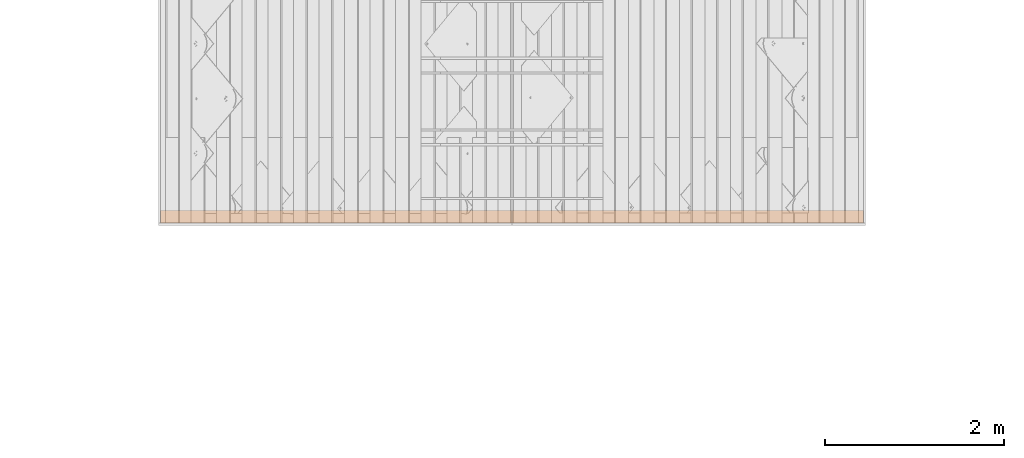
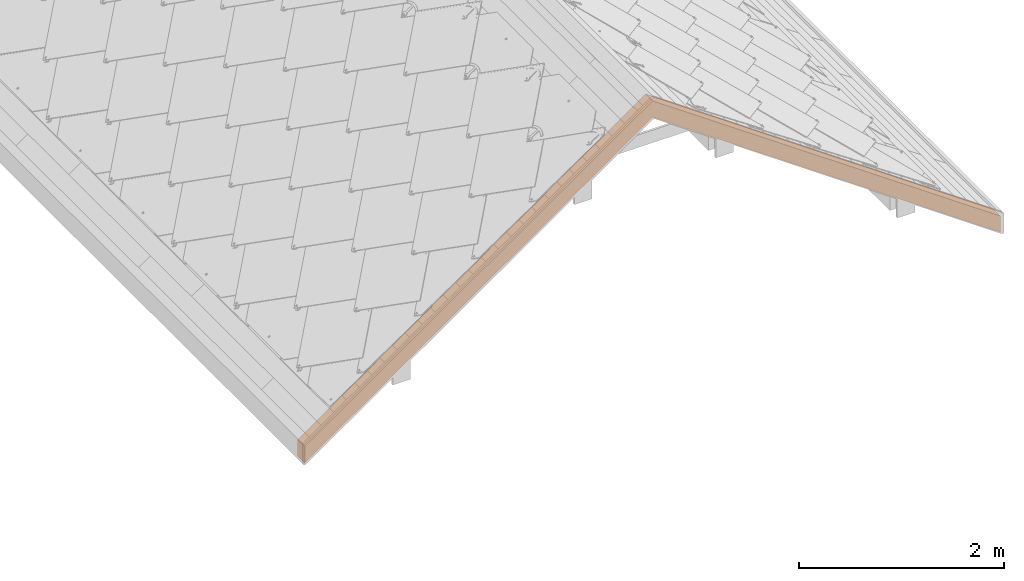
# One storey, part 143 of 151: 1 proxy, 1 element without a shape of its own.
"""IFC2X3 building model written with IfcOpenShell, lengths in millimetres."""

import ifcopenshell
import ifcopenshell.guid

model = None  # the IFC model being written
_history = None  # IfcOwnerHistory: only IFC2X3 demands one
_inside = {}  # id of a spatial element -> (the spatial element, [elements in it])
_under = {}  # id of a project, library or spatial element -> (it, [spatial elements below it])
_declared = {}  # id of a project -> (the project, [libraries it declares])
_typed = {}  # id of a type object -> (the type object, [elements of that type])
_made_of = {}  # id of a material, layer set ... -> (it, [elements and type objects made of it])


def new_model(schema):
    """Start an empty IFC model of exactly this schema.

    Asked for "IFC4X3", IfcOpenShell would pick the latest addendum, in which some entities
    have other attributes; the version numbers below select the first issue.
    IFC2X3 requires an IfcOwnerHistory on every rooted entity: one is made here for all.
    """
    global model, _history
    if schema == "IFC4X3":
        model = ifcopenshell.file(schema_version=(4, 3, 0, 0))
    else:
        model = ifcopenshell.file(schema=schema)
    _inside.clear()
    _under.clear()
    _declared.clear()
    _typed.clear()
    _made_of.clear()
    _history = None
    if model.schema == "IFC2X3":
        org = make("IfcOrganization", Name="unknown")
        user = make(
            "IfcPersonAndOrganization",
            ThePerson=make("IfcPerson", FamilyName="unknown"),
            TheOrganization=org,
        )
        app = make(
            "IfcApplication",
            ApplicationDeveloper=org,
            Version="unknown",
            ApplicationFullName="unknown",
            ApplicationIdentifier="unknown",
        )
        _history = make(
            "IfcOwnerHistory",
            OwningUser=user,
            OwningApplication=app,
            ChangeAction="ADDED",
            CreationDate=0,
        )
    return model


def make(cls, **values):
    """One entity of the class cls with the attributes given. An attribute that is None is left unset."""
    return model.create_entity(
        cls, **{name: value for name, value in values.items() if value is not None}
    )


def entity(cls, *values):
    """Any entity or typed value of the class cls, its attributes in the order of the schema. None: left unset."""
    e = model.create_entity(cls)
    for i, value in enumerate(values):
        if value is not None:
            e[i] = value
    return e


def rooted(cls, **values):
    """An entity with a GlobalId (a new one), such as an element, a storey or a relation."""
    return make(cls, GlobalId=ifcopenshell.guid.new(), OwnerHistory=_history, **values)


def si_unit(unit_type, name, prefix=None):
    """IfcSIUnit, for example si_unit("LENGTHUNIT", "METRE", prefix="MILLI")."""
    return make("IfcSIUnit", UnitType=unit_type, Prefix=prefix, Name=name)


def converted_unit(unit_type, name, factor, base, dimensions=None, offset=None):
    """IfcConversionBasedUnit, such as the inch: factor (a typed value) times the base unit."""
    return make(
        "IfcConversionBasedUnit"
        if offset is None
        else "IfcConversionBasedUnitWithOffset",
        ConversionOffset=offset,
        Dimensions=None
        if dimensions is None
        else entity("IfcDimensionalExponents", *dimensions),
        UnitType=unit_type,
        Name=name,
        ConversionFactor=make(
            "IfcMeasureWithUnit", ValueComponent=factor, UnitComponent=base
        ),
    )


def derived_unit(unit_type, elements):
    """IfcDerivedUnit: a product of units, each with its exponent."""
    return make(
        "IfcDerivedUnit",
        Elements=[
            make("IfcDerivedUnitElement", Unit=unit, Exponent=power)
            for unit, power in elements
        ],
        UnitType=unit_type,
    )


def assignment(units):
    """IfcUnitAssignment: the units of a project."""
    return None if units is None else make("IfcUnitAssignment", Units=units)


def point(xyz):
    """IfcCartesianPoint."""
    return None if xyz is None else make("IfcCartesianPoint", Coordinates=xyz)


def direction(xyz):
    """IfcDirection."""
    return None if xyz is None else make("IfcDirection", DirectionRatios=xyz)


def frame(location, z_axis=None, x_axis=None):
    """IfcAxis2Placement3D, a coordinate frame: its origin and axes. An axis left out is left unset."""
    return make(
        "IfcAxis2Placement3D",
        Location=point(location),
        Axis=direction(z_axis),
        RefDirection=direction(x_axis),
    )


def origin():
    """The frame at (0, 0, 0) with its axes left unset."""
    return frame((0.0, 0.0, 0.0))


def place(relative_to, where):
    """IfcLocalPlacement: puts the frame where relative to a parent placement (None: the world)."""
    return make(
        "IfcLocalPlacement", PlacementRelTo=relative_to, RelativePlacement=where
    )


def context(
    kind, dimensions, precision=None, world=None, true_north=None, identifier=None
):
    """IfcGeometricRepresentationContext, for example the 3D "Model" context."""
    return make(
        "IfcGeometricRepresentationContext",
        ContextIdentifier=identifier,
        ContextType=kind,
        CoordinateSpaceDimension=dimensions,
        Precision=precision,
        WorldCoordinateSystem=world,
        TrueNorth=true_north,
    )


def subcontext(parent, identifier, kind, view, scale=None):
    """IfcGeometricRepresentationSubContext, for example "Body" below "Model"."""
    return make(
        "IfcGeometricRepresentationSubContext",
        ContextIdentifier=identifier,
        ContextType=kind,
        ParentContext=parent,
        TargetScale=scale,
        TargetView=view,
    )


def project(units=None, contexts=None):
    """IfcProject with its units and contexts."""
    return rooted(
        "IfcProject",
        Name="project",
        RepresentationContexts=contexts,
        UnitsInContext=assignment(units),
    )


def spatial(cls, under=None, at=None, **own):
    """A site, building, storey or space (cls), placed at a placement, below another one or the project."""
    s = rooted(cls, ObjectPlacement=at, **own)
    if under is not None:
        _under.setdefault(under.id(), (under, []))[1].append(s)
    return s


def faces_of(points, faces, orient=None, outer=None):
    """IfcFace entities. A face is a list of loops; a loop is a list of indices into points, from 0.

    orient and outer hold one flag for each loop. By default every Orientation is true, the
    first loop of a face is its IfcFaceOuterBound and the others are IfcFaceBound.
    """
    made = []
    for i, loops in enumerate(faces):
        bounds = []
        for j, loop in enumerate(loops):
            is_outer = j == 0 if outer is None else outer[i][j]
            bounds.append(
                make(
                    "IfcFaceOuterBound" if is_outer else "IfcFaceBound",
                    Bound=make("IfcPolyLoop", Polygon=[points[k] for k in loop]),
                    Orientation=True if orient is None else orient[i][j],
                )
            )
        made.append(make("IfcFace", Bounds=bounds))
    return made


def faceted_brep(points, faces, orient=None, outer=None, voids=None):
    """IfcFacetedBrep: a solid bounded by flat faces; with voids (closed shells), ...WithVoids."""
    shared = [point(p) for p in points]
    hull = make("IfcClosedShell", CfsFaces=faces_of(shared, faces, orient, outer))
    if voids is None:
        return make("IfcFacetedBrep", Outer=hull)
    return make(
        "IfcFacetedBrepWithVoids",
        Outer=hull,
        Voids=[
            make(cls, CfsFaces=faces_of(shared, fs, o, b)) for cls, fs, o, b in voids
        ],
    )


def shape(context_of_items, identifier, shape_type, items):
    """IfcShapeRepresentation: the items that make up one representation, for example the "Body"."""
    return make(
        "IfcShapeRepresentation",
        ContextOfItems=context_of_items,
        RepresentationIdentifier=identifier,
        RepresentationType=shape_type,
        Items=items,
    )


def source(mapping_origin, context_of_items, identifier, shape_type, items):
    """IfcRepresentationMap: a shape defined once, which mapped items show again and again."""
    return make(
        "IfcRepresentationMap",
        MappingOrigin=mapping_origin,
        MappedRepresentation=shape(context_of_items, identifier, shape_type, items),
    )


def transform(
    local_origin,
    x_axis=None,
    y_axis=None,
    z_axis=None,
    scale=None,
    scale2=None,
    scale3=None,
    uniform=True,
):
    """IfcCartesianTransformationOperator3D, or its non-uniform kind. x_axis, y_axis, z_axis: its Axis1, 2, 3."""
    if uniform:
        return make(
            "IfcCartesianTransformationOperator3D",
            Axis1=direction(x_axis),
            Axis2=direction(y_axis),
            LocalOrigin=point(local_origin),
            Scale=scale,
            Axis3=direction(z_axis),
        )
    return make(
        "IfcCartesianTransformationOperator3DnonUniform",
        Axis1=direction(x_axis),
        Axis2=direction(y_axis),
        LocalOrigin=point(local_origin),
        Scale=scale,
        Axis3=direction(z_axis),
        Scale2=scale2,
        Scale3=scale3,
    )


def mapped(mapping_source, mapping_target):
    """IfcMappedItem: shows the shape of a source again, moved by a transform."""
    return make(
        "IfcMappedItem", MappingSource=mapping_source, MappingTarget=mapping_target
    )


def material(Name=None, Category=None):
    """IfcMaterial."""
    return make("IfcMaterial", Name=Name, Category=Category)


def made_of(thing, what):
    """Note that an element or type object is made of a material, layer set ...; save() writes the relation."""
    if what is not None:
        _made_of.setdefault(what.id(), (what, []))[1].append(thing)
    return thing


def type_object(cls, material=None, **own):
    """A type object (cls), such as IfcWallType, which elements share."""
    return made_of(rooted(cls, **own), material)


def type_shapes(of_type, sources):
    """Give a type object the sources (RepresentationMaps) that its elements show as mapped items."""
    of_type.RepresentationMaps = sources


def element(
    cls,
    number,
    at=None,
    inside=None,
    cuts=None,
    type_object=None,
    material=None,
    context=None,
    identifier="Body",
    shape_type=None,
    held_by="IfcProductDefinitionShape",
    body=None,
    shapes=None,
    **own,
):
    """One element of the class cls, such as IfcWall. Its Tag is "e" and its number.

    at: its placement. inside: the storey or other place that contains it. cuts: it is an
    opening in that element (IfcRelVoidsElement). A single representation is given by context,
    identifier, shape_type and body (its items); several are given by shapes. held_by: the class
    of the entity that holds the representations. save() writes the other relations.
    """
    e = rooted(cls, Tag="e%d" % number, ObjectPlacement=at, **own)
    if body is not None:
        shapes = [shape(context, identifier, shape_type, body)]
    if shapes is not None:
        e.Representation = make(held_by, Representations=shapes)
    if inside is not None:
        _inside.setdefault(inside.id(), (inside, []))[1].append(e)
    if cuts is not None:
        rooted(
            "IfcRelVoidsElement", RelatingBuildingElement=cuts, RelatedOpeningElement=e
        )
    if type_object is not None:
        _typed.setdefault(type_object.id(), (type_object, []))[1].append(e)
    return made_of(e, material)


def aggregate(whole, parts):
    """IfcRelAggregates: a whole, such as a stair, and the parts it consists of."""
    return rooted("IfcRelAggregates", RelatingObject=whole, RelatedObjects=parts)


def save(model, path):
    """Write the relations noted so far, then the file.

    IfcRelAggregates (storeys below a building ...), IfcRelContainedInSpatialStructure (elements
    in a storey), IfcRelDefinesByType, IfcRelAssociatesMaterial and IfcRelDeclares: one each for
    every whole, place, type object, material and project.
    """
    for whole, parts in _under.values():
        aggregate(whole, parts)
    for where, things in _inside.values():
        rooted(
            "IfcRelContainedInSpatialStructure",
            RelatedElements=things,
            RelatingStructure=where,
        )
    for kind, things in _typed.values():
        rooted("IfcRelDefinesByType", RelatedObjects=things, RelatingType=kind)
    for what, things in _made_of.values():
        rooted("IfcRelAssociatesMaterial", RelatedObjects=things, RelatingMaterial=what)
    for by, libraries in _declared.values():
        rooted("IfcRelDeclares", RelatingContext=by, RelatedDefinitions=libraries)
    model.write(path)


model = new_model("IFC2X3")

# Units and contexts
model_context = context("Model", 3, precision=0.01, world=origin(), true_north=direction((6.12303176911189e-17, 1.0)))
body_context = subcontext(model_context, "Body", "Model", "MODEL_VIEW")
ifc_project = project(units=[si_unit("LENGTHUNIT", "METRE", prefix="MILLI"), si_unit("AREAUNIT", "SQUARE_METRE"), si_unit("VOLUMEUNIT", "CUBIC_METRE"), converted_unit("PLANEANGLEUNIT", "DEGREE", entity("IfcRatioMeasure", 0.0174532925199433), si_unit("PLANEANGLEUNIT", "RADIAN"), dimensions=[0, 0, 0, 0, 0, 0, 0]), si_unit("MASSUNIT", "GRAM", prefix="KILO"), derived_unit("MASSDENSITYUNIT", [(si_unit("MASSUNIT", "GRAM", prefix="KILO"), 1), (si_unit("LENGTHUNIT", "METRE"), -3)]), si_unit("TIMEUNIT", "SECOND"), si_unit("FREQUENCYUNIT", "HERTZ"), si_unit("THERMODYNAMICTEMPERATUREUNIT", "DEGREE_CELSIUS"), derived_unit("THERMALTRANSMITTANCEUNIT", [(si_unit("MASSUNIT", "GRAM", prefix="KILO"), 1), (si_unit("THERMODYNAMICTEMPERATUREUNIT", "KELVIN"), -1), (si_unit("TIMEUNIT", "SECOND"), -3)]), derived_unit("VOLUMETRICFLOWRATEUNIT", [(si_unit("LENGTHUNIT", "METRE"), 3), (si_unit("TIMEUNIT", "SECOND"), -1)]), si_unit("ELECTRICCURRENTUNIT", "AMPERE"), si_unit("ELECTRICVOLTAGEUNIT", "VOLT"), si_unit("POWERUNIT", "WATT"), si_unit("FORCEUNIT", "NEWTON", prefix="KILO"), si_unit("ILLUMINANCEUNIT", "LUX"), si_unit("LUMINOUSFLUXUNIT", "LUMEN"), si_unit("LUMINOUSINTENSITYUNIT", "CANDELA"), derived_unit("USERDEFINED", [(si_unit("MASSUNIT", "GRAM", prefix="KILO"), -1), (si_unit("LENGTHUNIT", "METRE"), -2), (si_unit("TIMEUNIT", "SECOND"), 3), (si_unit("LUMINOUSFLUXUNIT", "LUMEN"), 1)]), derived_unit("LINEARVELOCITYUNIT", [(si_unit("LENGTHUNIT", "METRE"), 1), (si_unit("TIMEUNIT", "SECOND"), -1)]), si_unit("PRESSUREUNIT", "PASCAL"), derived_unit("USERDEFINED", [(si_unit("LENGTHUNIT", "METRE"), -2), (si_unit("MASSUNIT", "GRAM", prefix="KILO"), 1), (si_unit("TIMEUNIT", "SECOND"), -2)])], contexts=[model_context])

# Site, building, storey
site_placement = place(None, origin())
site = spatial("IfcSite", under=ifc_project, at=site_placement, Name="Default", CompositionType="ELEMENT")
building_placement = place(site_placement, origin())
building = spatial("IfcBuilding", under=site, at=building_placement, CompositionType="ELEMENT")
storey_placement = place(building_placement, origin())
storey = spatial("IfcBuildingStorey", under=building, at=storey_placement, Name="Level 1", CompositionType="ELEMENT", Elevation=0.0)

# Assembly, proxy
assembly_placement = place(storey_placement, origin())
assembly = element("IfcElementAssembly", 1, at=assembly_placement, inside=storey, Name="Structural Framing Assembly:Roof Construction Assembly", ObjectType="Structural Framing Assembly:Roof Construction Assembly", AssemblyPlace="NOTDEFINED", PredefinedType="USERDEFINED")
ifc_material = material(Name="Wood - Generic - Wood For Showcase")
building_element_proxy_type = type_object("IfcBuildingElementProxyType", Name="Structural Framing 1", PredefinedType="NOTDEFINED", material=ifc_material)
shared_shape = source(origin(), body_context, "Body", "Brep", [
    faceted_brep([(3925.7904223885, 140.0, 2944.19198139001), (7851.58084477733, 140.0, 195.323934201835), (7851.58084477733, 140.0, 0.0), (6871.58084477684, 140.0, 686.203387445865), (6871.58084477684, 140.0, 800.20753821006), (6708.76604410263, 140.0, 800.207538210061), (4823.70073405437, 140.0, 2120.14447832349), (4823.70073405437, 140.0, 2234.14862908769), (4660.88593338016, 140.0, 2234.14862908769), (3925.7904223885, 140.0, 2748.86804718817), (3190.69491139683, 140.0, 2234.14862908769), (3027.8801107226, 140.0, 2234.14862908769), (3027.8801107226, 140.0, 2120.14447832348), (1142.81480067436, 140.0, 800.20753821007), (980.0, 140.0, 800.207538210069), (980.0, 140.0, 686.203387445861), (0.0, 140.0, 0.0), (0.0, 140.0, 195.323934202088), (3925.7904223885, 0.0, 2944.19198139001), (0.0, 0.0, 195.323934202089), (0.0, 0.0, 0.0), (3925.7904223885, 0.0, 2748.86804718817), (7851.58084477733, 0.0, 0.0), (7851.58084477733, 0.0, 195.323934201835), (4660.88593338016, 120.955607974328, 2234.14862908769), (4823.70073405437, 120.955607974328, 2120.14447832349), (6708.76604410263, 120.955607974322, 800.207538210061), (6871.58084477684, 120.955607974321, 686.203387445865), (980.0, 120.95560797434, 686.20338744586), (1142.81480067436, 120.95560797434, 800.20753821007), (3027.88011072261, 120.955607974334, 2120.14447832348), (3190.69491139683, 120.955607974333, 2234.14862908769), (6871.58084477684, 120.955607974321, 800.20753821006), (980.0, 120.955607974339, 800.20753821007), (3027.8801107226, 120.955607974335, 2234.14862908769), (4823.70073405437, 120.955607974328, 2234.14862908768)], [[[0, 1, 2, 3, 4, 5, 6, 7, 8, 9, 10, 11, 12, 13, 14, 15, 16, 17]], [[18, 19, 20, 21, 22, 23]], [[1, 0, 18, 23]], [[2, 1, 23, 22]], [[22, 21, 9, 8, 24, 25, 6, 5, 26, 27, 3, 2]], [[21, 20, 16, 15, 28, 29, 13, 12, 30, 31, 10, 9]], [[17, 16, 20, 19]], [[0, 17, 19, 18]], [[32, 27, 26]], [[29, 33, 14, 13]], [[33, 28, 15, 14]], [[27, 32, 4, 3]], [[32, 26, 5, 4]], [[31, 34, 11, 10]], [[34, 30, 12, 11]], [[25, 35, 7, 6]], [[35, 24, 8, 7]], [[35, 25, 24]], [[34, 31, 30]], [[33, 29, 28]]]),
])
type_shapes(building_element_proxy_type, [shared_shape])
proxy_placement = place(assembly_placement, frame((-2661.52364401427, -6702.90480582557, -144.191981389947)))
proxy = element("IfcBuildingElementProxy", 2, at=proxy_placement, type_object=building_element_proxy_type, material=ifc_material, Name="Structural Framing 14:Structural Framing 1", ObjectType="Structural Framing 14:Structural Framing 1", context=body_context, shape_type="MappedRepresentation", body=[
    mapped(shared_shape, transform((0.0, 0.0, 0.0), scale=1.0)),
])
aggregate(assembly, [proxy])

save(model, "model.ifc")
